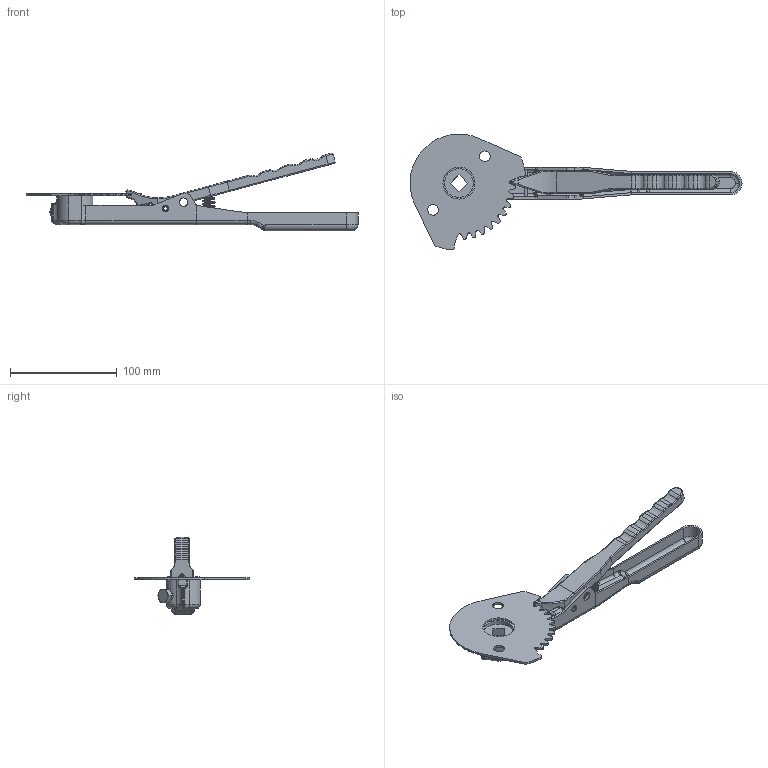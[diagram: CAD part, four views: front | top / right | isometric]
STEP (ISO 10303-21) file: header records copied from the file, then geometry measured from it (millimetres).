
FILE_DESCRIPTION (( 'STEP AP203' ), '1' );
FILE_NAME ('4※忒梟.STEP', '2026-03-04T05:37:11', ( '' ), ( '' ), 'SwSTEP 2.0', 'SolidWorks 2018', '' );
FILE_SCHEMA (( 'CONFIG_CONTROL_DESIGN' ));
Length unit declared in the file: millimetre
Products named in the file (7): 新型玛钢手柄齿盘(不锈钢)-DN100-DN150; 5.spring - 9005; 鞠褒芛蹟邡 M8X16; 4※忒梟; 新型玛钢手柄副手柄-DN100-DN125-9004; spring pin slotted heavy duty1 gb_GB_PARALLEL_PINS_TYPE6 6X30; 新型玛钢手柄主手柄-DN100-DN125-立方孔11-9004
Assembly tree (6 placements, depth 2):
  4※忒梟
    新型玛钢手柄主手柄-DN100-DN125-立方孔11-9004
    spring pin slotted heavy duty1 gb_GB_PARALLEL_PINS_TYPE6 6X30
    新型玛钢手柄齿盘(不锈钢)-DN100-DN150
    5.spring - 9005
    鞠褒芛蹟邡 M8X16
    新型玛钢手柄副手柄-DN100-DN125-9004
Bounding box: 311.44 x 108.7 x 73.14 mm (x, y, z)
Volume: 84485.2 mm3; surface area: 66605.6 mm2
Topology: 7 solids, 7 shells, 543 faces, 1335 edges, 786 vertices
Faces by surface type: cylinder 244, plane 123, torus 72, bspline 66, sphere 25, cone 13
Entity records: 298027 total; most frequent: CARTESIAN_POINT 284909, DIRECTION 2681, ORIENTED_EDGE 2612, EDGE_CURVE 1306, AXIS2_PLACEMENT_3D 1073, VERTEX_POINT 780, CIRCLE 587, EDGE_LOOP 574
